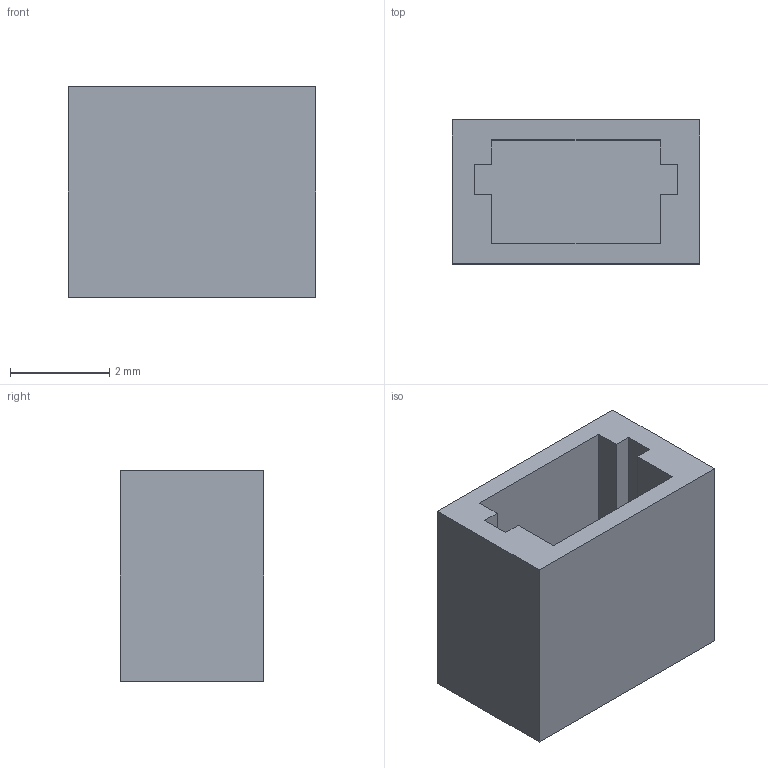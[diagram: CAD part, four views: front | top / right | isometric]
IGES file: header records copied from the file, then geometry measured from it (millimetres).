
Start section:  PTC IGES file: j5-cn6.igs
Global section: file name: j5-cn6.igs; native system: Creo Parametric by PTC Inc.; preprocessor: 2017480; author: BP68092; organization: Unknown; date: 20190225.135506; units: millimetre
Bounding box: 5 x 2.9 x 4.25 mm (x, y, z)
Volume: 38.9 mm3; surface area: 133.3 mm2
Topology: 1 solids, 1 shells, 19 faces, 48 edges, 32 vertices
Faces by surface type: bspline 19
